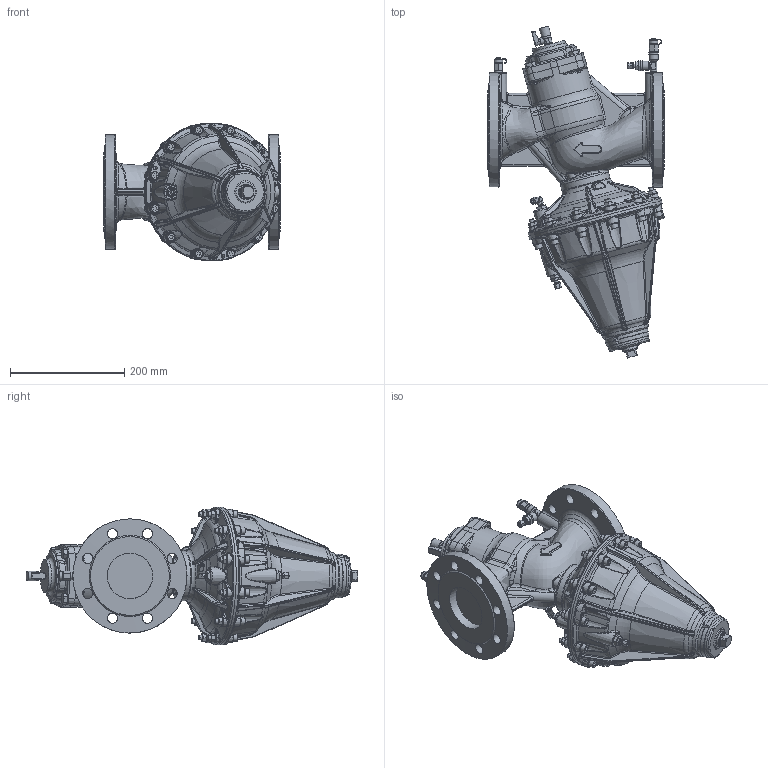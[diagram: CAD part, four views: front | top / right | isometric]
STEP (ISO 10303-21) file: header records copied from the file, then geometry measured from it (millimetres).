
FILE_DESCRIPTION (( 'STEP AP203' ), '1' );
FILE_NAME ('DL08016_2.STEP', '2014-10-02T08:16:22', ( 'luca.saino' ), ( 'Hewlett-Packard Company' ), 'SwSTEP 2.0', 'SolidWorks 2012', '' );
FILE_SCHEMA (( 'CONFIG_CONTROL_DESIGN' ));
Products named in the file (1): DL08016_2
Bounding box: 310 x 581.73 x 241.52 mm (x, y, z)
Volume: 10394297.3 mm3; surface area: 591372.2 mm2
Topology: 1 solids, 39 shells, 2948 faces, 7046 edges, 4194 vertices
Faces by surface type: bspline 1122, plane 679, cone 491, cylinder 398, torus 241, sphere 17
Full cylindrical faces by diameter (mm): 4 x2, 4.4 x1, 5.615 x2, 5.687 x2, 6.5 x2, 6.75 x3, 7.4 x2, 7.895 x1, 8 x36, 8.5 x24, 8.9 x2, 9.6 x1, 9.717 x2, 9.8 x3, 10 x4, 10.072 x2, 11 x4, 11.5 x2, 11.7 x1, 12 x1, 13 x12, 13.15 x1, 13.157 x2, 15 x2, 15.6 x1, 16 x2, 16.6 x1, 16.8 x1, 17 x2, 18 x16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
Entity records: 138822 total; most frequent: CARTESIAN_POINT 81854, ORIENTED_EDGE 13284, DIRECTION 9553, EDGE_CURVE 6642, AXIS2_PLACEMENT_3D 4179, VERTEX_POINT 4034, EDGE_LOOP 3314, FACE_OUTER_BOUND 3105
